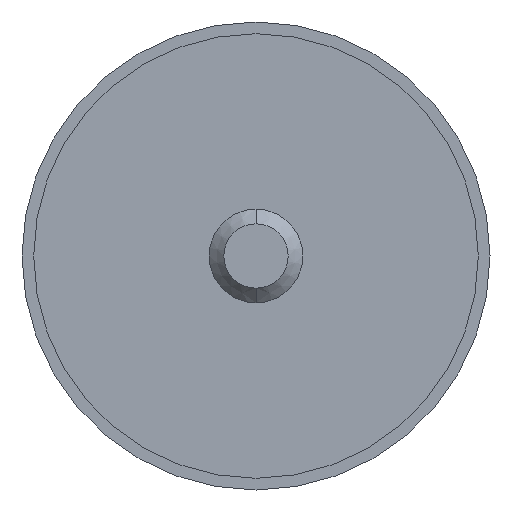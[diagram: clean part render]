
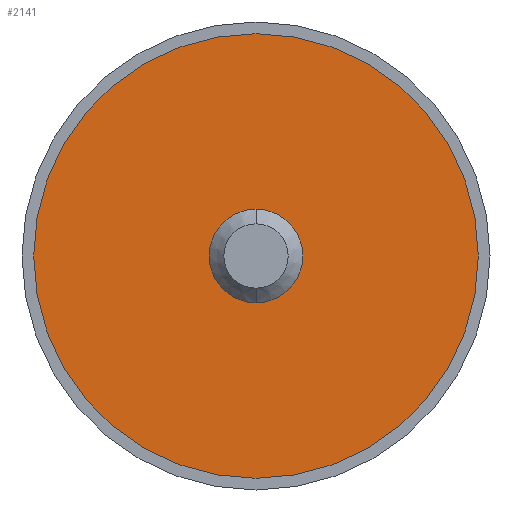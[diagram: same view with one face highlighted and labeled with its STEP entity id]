
A CAD part, front view. The second image highlights one B-rep face of the part: STEP entity #2141.
In plain terms, the highlighted planar face has unit normal (0, -1, 0).
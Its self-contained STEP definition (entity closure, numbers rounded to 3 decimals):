
#104 = VERTEX_POINT ( 'NONE', #3710 ) ;
#218 = ORIENTED_EDGE ( 'NONE', *, *, #602, .F. ) ;
#270 = DIRECTION ( 'NONE',  ( 0., 0., -1. ) ) ;
#350 = EDGE_CURVE ( 'NONE', #3742, #1388, #1125, .T. ) ;
#470 = ORIENTED_EDGE ( 'NONE', *, *, #1645, .F. ) ;
#505 = VERTEX_POINT ( 'NONE', #1253 ) ;
#542 = AXIS2_PLACEMENT_3D ( 'NONE', #1788, #2688, #3902 ) ;
#602 = EDGE_CURVE ( 'NONE', #505, #104, #1849, .T. ) ;
#762 = AXIS2_PLACEMENT_3D ( 'NONE', #1243, #954, #1571 ) ;
#770 = DIRECTION ( 'NONE',  ( 0., 1., 0. ) ) ;
#830 = PLANE ( 'NONE',  #2298 ) ;
#868 = CARTESIAN_POINT ( 'NONE',  ( 0., -1., 0. ) ) ;
#913 = DIRECTION ( 'NONE',  ( 0., 0., 1. ) ) ;
#954 = DIRECTION ( 'NONE',  ( 0., 1., 0. ) ) ;
#962 = AXIS2_PLACEMENT_3D ( 'NONE', #1284, #1590, #270 ) ;
#1125 = CIRCLE ( 'NONE', #542, 4. ) ;
#1132 = DIRECTION ( 'NONE',  ( 0., 0., 1. ) ) ;
#1164 = FACE_BOUND ( 'NONE', #1375, .T. ) ;
#1174 = DIRECTION ( 'NONE',  ( 0., 1., 0. ) ) ;
#1208 = FACE_OUTER_BOUND ( 'NONE', #3360, .T. ) ;
#1243 = CARTESIAN_POINT ( 'NONE',  ( 0., -1., 0. ) ) ;
#1253 = CARTESIAN_POINT ( 'NONE',  ( 0., -1., -19. ) ) ;
#1284 = CARTESIAN_POINT ( 'NONE',  ( 0., -1., 0. ) ) ;
#1375 = EDGE_LOOP ( 'NONE', ( #2531, #3614 ) ) ;
#1388 = VERTEX_POINT ( 'NONE', #1676 ) ;
#1546 = CIRCLE ( 'NONE', #962, 4. ) ;
#1571 = DIRECTION ( 'NONE',  ( 0., 0., 1. ) ) ;
#1590 = DIRECTION ( 'NONE',  ( 0., -1., 0. ) ) ;
#1645 = EDGE_CURVE ( 'NONE', #104, #505, #2694, .T. ) ;
#1676 = CARTESIAN_POINT ( 'NONE',  ( 0., -1., -4. ) ) ;
#1788 = CARTESIAN_POINT ( 'NONE',  ( 0., -1., 0. ) ) ;
#1849 = CIRCLE ( 'NONE', #762, 19. ) ;
#1946 = EDGE_CURVE ( 'NONE', #1388, #3742, #1546, .T. ) ;
#2141 = ADVANCED_FACE ( 'NONE', ( #1164, #1208 ), #830, .F. ) ;
#2298 = AXIS2_PLACEMENT_3D ( 'NONE', #868, #1174, #1132 ) ;
#2531 = ORIENTED_EDGE ( 'NONE', *, *, #350, .F. ) ;
#2688 = DIRECTION ( 'NONE',  ( 0., -1., 0. ) ) ;
#2694 = CIRCLE ( 'NONE', #3559, 19. ) ;
#3060 = CARTESIAN_POINT ( 'NONE',  ( 0., -1., 0. ) ) ;
#3360 = EDGE_LOOP ( 'NONE', ( #470, #218 ) ) ;
#3559 = AXIS2_PLACEMENT_3D ( 'NONE', #3060, #770, #913 ) ;
#3614 = ORIENTED_EDGE ( 'NONE', *, *, #1946, .F. ) ;
#3710 = CARTESIAN_POINT ( 'NONE',  ( 0., -1., 19. ) ) ;
#3742 = VERTEX_POINT ( 'NONE', #3818 ) ;
#3818 = CARTESIAN_POINT ( 'NONE',  ( 0., -1., 4. ) ) ;
#3902 = DIRECTION ( 'NONE',  ( 0., 0., -1. ) ) ;
